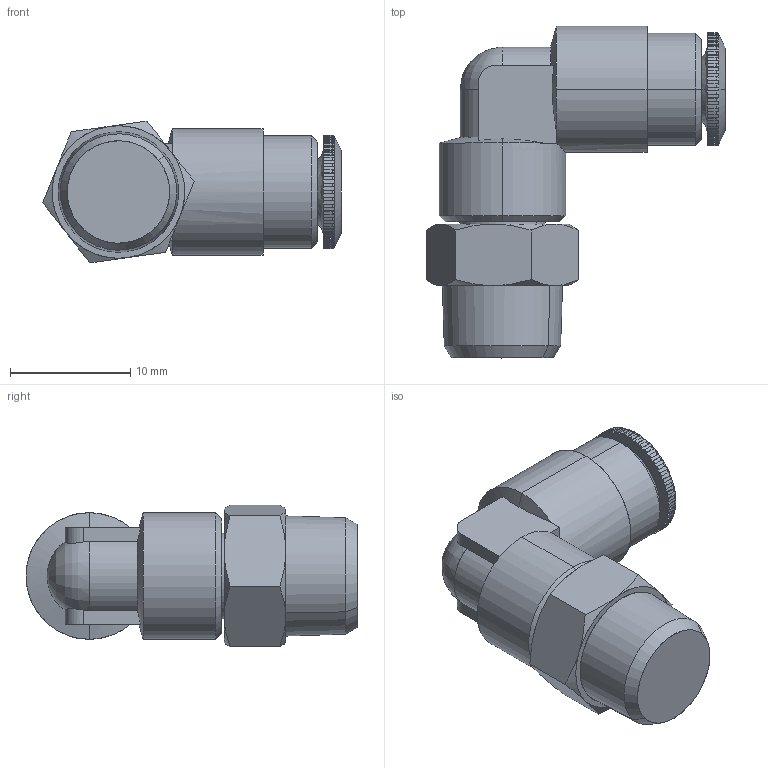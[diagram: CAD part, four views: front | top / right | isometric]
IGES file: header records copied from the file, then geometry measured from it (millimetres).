
Start section: SolidWorks IGES file using analytic representation for surfaces
Global section: file name: K:\Disegni Esecutivi\SERIE 58000\58111\58111_iges\5811100003A.IGS; native system: SolidWorks 2011; preprocessor: SolidWorks 2011; author: cad05; date: 110621.161839; units: millimetre
Bounding box: 24.79 x 27.55 x 11.78 mm (x, y, z)
Surface area: 1608.4 mm2 (no closed solid volume)
Topology: 0 solids, 0 shells, 269 faces, 2190 edges, 2189 vertices
Faces by surface type: bspline 178, revolution 91
